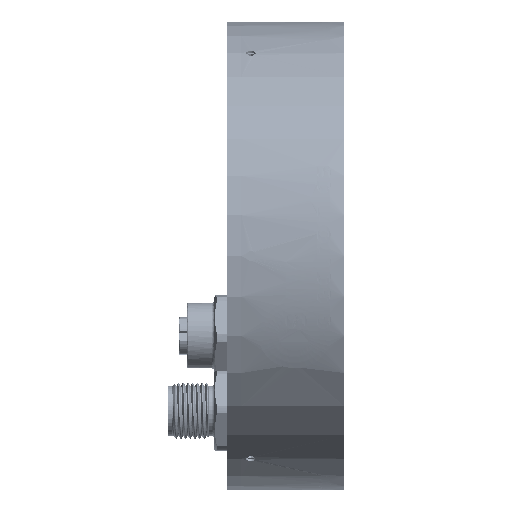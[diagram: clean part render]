
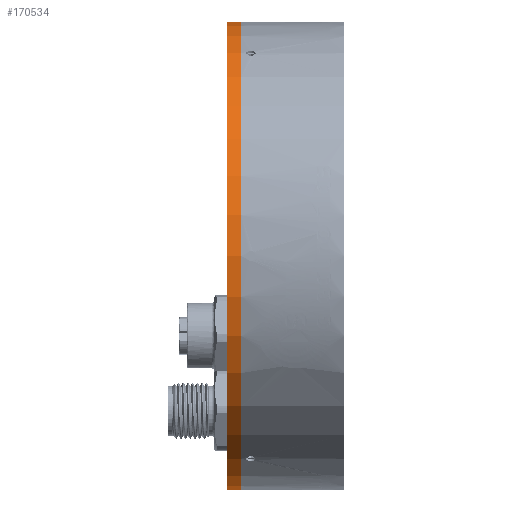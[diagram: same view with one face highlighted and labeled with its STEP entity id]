
A CAD part, front view. The second image highlights one B-rep face of the part: STEP entity #170534.
In plain terms, the highlighted cylindrical face has radius 50 mm (diameter 100 mm), a partial arc.
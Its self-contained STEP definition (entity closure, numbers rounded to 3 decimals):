
#3619 = DIRECTION ( 'NONE',  ( -1., 0., 0. ) ) ;
#6817 = EDGE_CURVE ( 'NONE', #91839, #29250, #189314, .T. ) ;
#17154 = AXIS2_PLACEMENT_3D ( 'NONE', #192147, #3619, #26398 ) ;
#19774 = VECTOR ( 'NONE', #66001, 1000. ) ;
#26398 = DIRECTION ( 'NONE',  ( 0., 0., 1. ) ) ;
#28545 = CARTESIAN_POINT ( 'NONE',  ( -3., 0., 50. ) ) ;
#29250 = VERTEX_POINT ( 'NONE', #213387 ) ;
#36591 = CIRCLE ( 'NONE', #150917, 50. ) ;
#42150 = DIRECTION ( 'NONE',  ( 0., 0., 1. ) ) ;
#51839 = FACE_OUTER_BOUND ( 'NONE', #308092, .T. ) ;
#66001 = DIRECTION ( 'NONE',  ( -1., 0., 0. ) ) ;
#78397 = EDGE_CURVE ( 'NONE', #91839, #129564, #198730, .T. ) ;
#80407 = ORIENTED_EDGE ( 'NONE', *, *, #6817, .F. ) ;
#91839 = VERTEX_POINT ( 'NONE', #109500 ) ;
#93587 = CARTESIAN_POINT ( 'NONE',  ( 6., 0., 50. ) ) ;
#100575 = CYLINDRICAL_SURFACE ( 'NONE', #185583, 50. ) ;
#101127 = ORIENTED_EDGE ( 'NONE', *, *, #141272, .F. ) ;
#109500 = CARTESIAN_POINT ( 'NONE',  ( 0., 0., -50. ) ) ;
#114793 = LINE ( 'NONE', #93587, #19774 ) ;
#129564 = VERTEX_POINT ( 'NONE', #268035 ) ;
#141272 = EDGE_CURVE ( 'NONE', #29250, #205048, #36591, .T. ) ;
#150917 = AXIS2_PLACEMENT_3D ( 'NONE', #217512, #267873, #42150 ) ;
#170534 = ADVANCED_FACE ( 'NONE', ( #51839 ), #100575, .T. ) ;
#170609 = EDGE_CURVE ( 'NONE', #129564, #205048, #114793, .T. ) ;
#185583 = AXIS2_PLACEMENT_3D ( 'NONE', #199675, #194825, #220823 ) ;
#189314 = LINE ( 'NONE', #289990, #286998 ) ;
#192147 = CARTESIAN_POINT ( 'NONE',  ( 0., 0., 0. ) ) ;
#194825 = DIRECTION ( 'NONE',  ( -1., 0., 0. ) ) ;
#197023 = ORIENTED_EDGE ( 'NONE', *, *, #170609, .T. ) ;
#198730 = CIRCLE ( 'NONE', #17154, 50. ) ;
#199675 = CARTESIAN_POINT ( 'NONE',  ( 6., 0., 0. ) ) ;
#205048 = VERTEX_POINT ( 'NONE', #28545 ) ;
#213387 = CARTESIAN_POINT ( 'NONE',  ( -3., 0., -50. ) ) ;
#217512 = CARTESIAN_POINT ( 'NONE',  ( -3., 0., 0. ) ) ;
#220823 = DIRECTION ( 'NONE',  ( 0., 0., 1. ) ) ;
#267873 = DIRECTION ( 'NONE',  ( -1., 0., 0. ) ) ;
#268035 = CARTESIAN_POINT ( 'NONE',  ( 0., 0., 50. ) ) ;
#286998 = VECTOR ( 'NONE', #308015, 1000. ) ;
#289990 = CARTESIAN_POINT ( 'NONE',  ( 6., 0., -50. ) ) ;
#299543 = ORIENTED_EDGE ( 'NONE', *, *, #78397, .T. ) ;
#308015 = DIRECTION ( 'NONE',  ( -1., 0., 0. ) ) ;
#308092 = EDGE_LOOP ( 'NONE', ( #80407, #299543, #197023, #101127 ) ) ;
